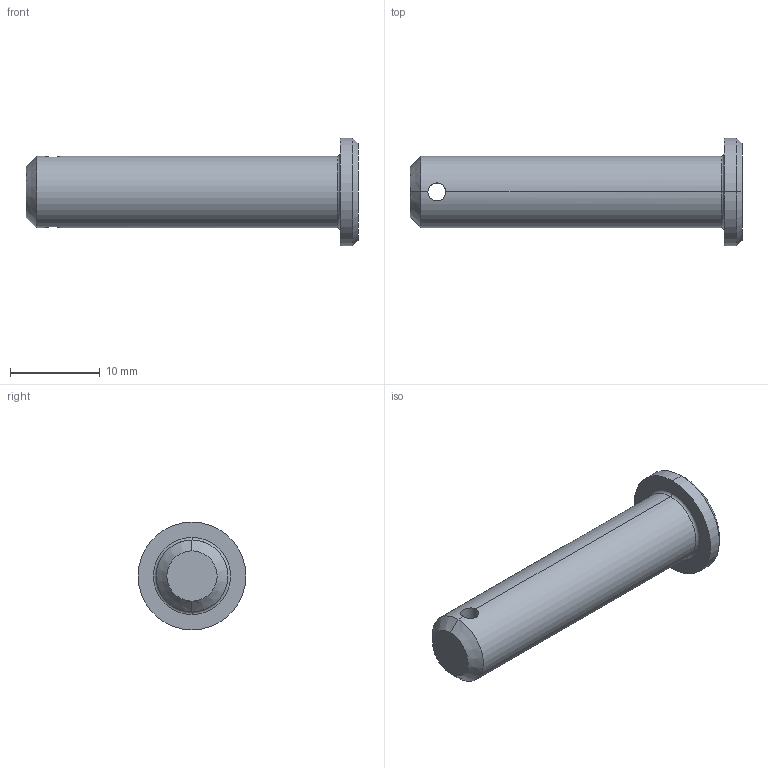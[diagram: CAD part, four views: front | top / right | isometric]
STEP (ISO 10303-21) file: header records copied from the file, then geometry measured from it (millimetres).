
FILE_DESCRIPTION (( 'STEP AP203' ), '1' );
FILE_NAME ('Wiberger-sms2360_8x35.step', '2012-10-09T08:59:00', ( 'Magnus' ), ( 'Wiberger' ), 'SwSTEP 2.0', 'SolidWorks 2011', '' );
FILE_SCHEMA (( 'CONFIG_CONTROL_DESIGN' ));
Length unit declared in the file: millimetre
Products named in the file (1): Wiberger-sms2360_8x35
Bounding box: 37 x 12 x 12 mm (x, y, z)
Volume: 1938.2 mm3; surface area: 1187.9 mm2
Topology: 1 solids, 1 shells, 15 faces, 32 edges, 18 vertices
Faces by surface type: cylinder 6, cone 4, plane 3, torus 2
Entity records: 543 total; most frequent: CARTESIAN_POINT 134, DIRECTION 76, ORIENTED_EDGE 64, EDGE_CURVE 32, AXIS2_PLACEMENT_3D 32, VERTEX_POINT 18, EDGE_LOOP 16, CIRCLE 16
